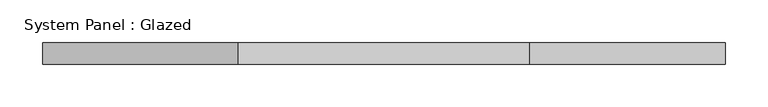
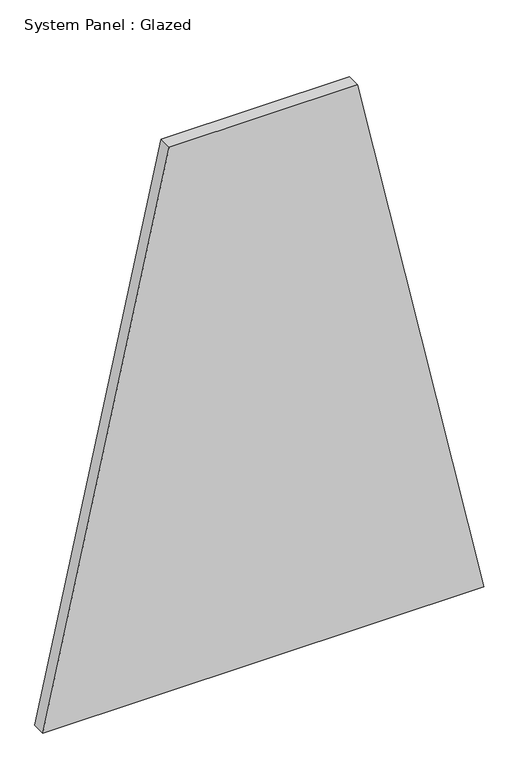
"""IFC4 building model written with IfcOpenShell, lengths in millimetres: plate geometry, System Panel : Glazed."""

from ifc_helpers import new_model, si_unit, frame, origin, place, context, project, spatial, polyline, outline, extrude, source, transform, mapped, element, save


def system_panel_glazed_714dea7d(model_context):
    return source(origin(), model_context, "Body", "SweptSolid", [
        extrude(outline(polyline([(0.0, -399.7385452), (0.0, 399.7385452), (1041.9112285, 170.6463543), (1041.9112285, -170.6463543), (0.0, -399.7385452)])), frame((0.0, -49.5, 0.0), z_axis=(0.0, 1.0, 0.0), x_axis=(0.0, 0.0, 1.0)), (0.0, 0.0, 1.0), 25.0),
    ])


if __name__ == "__main__":
    model = new_model("IFC4")
    model_context = context("Model", 3, world=origin())
    ifc_project = project(units=[si_unit("LENGTHUNIT", "METRE", prefix="MILLI")], contexts=[model_context])
    site = spatial("IfcSite", under=ifc_project)
    building = spatial("IfcBuilding", under=site)
    placement = place(None, origin())
    system_panel_glazed_shape = system_panel_glazed_714dea7d(model_context)
    element("IfcPlate", 1, ObjectType="System Panel : Glazed", at=placement, inside=building, context=model_context, shape_type="MappedRepresentation", body=[
        mapped(system_panel_glazed_shape, transform((0.0, 0.0, 0.0), x_axis=(1.0, 0.0, 0.0), y_axis=(0.0, 1.0, 0.0), z_axis=(0.0, 0.0, 1.0))),
    ])
    save(model, "model.ifc")
